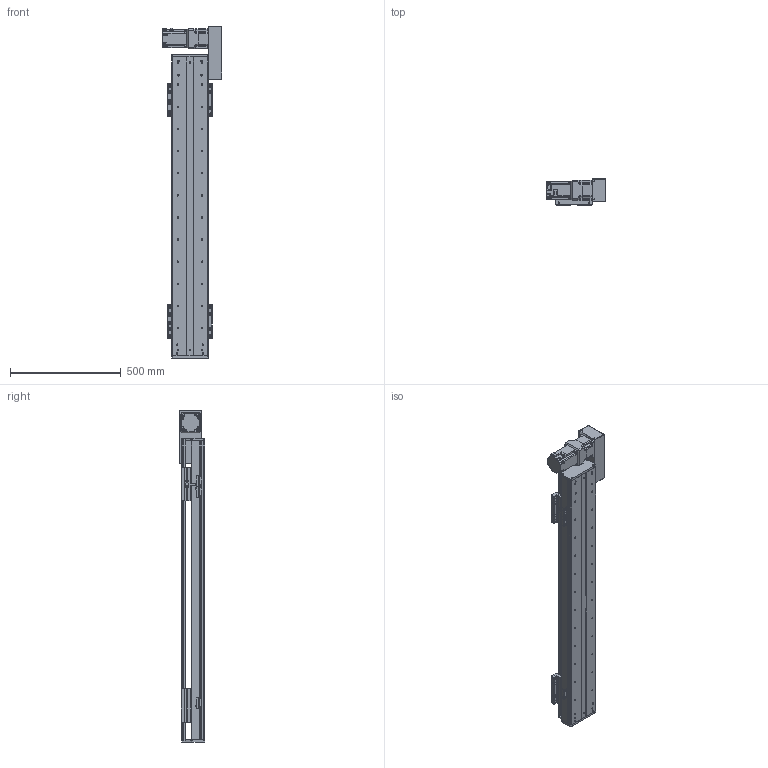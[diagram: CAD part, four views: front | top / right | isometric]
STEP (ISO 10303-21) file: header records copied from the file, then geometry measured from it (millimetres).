
FILE_DESCRIPTION(/* description */ (''),/* implementation_level */ '2;1');
FILE_NAME(/* name */ 'C:\Users\PC\Desktop\3D도면\STEP\DSB165-R7G-W1000-L.stp',/* time_stamp */ '2018-06-25T14:38:57+09:00',/* author */ ('PC'),/* organization */ (''),/* preprocessor_version */ 'ST-DEVELOPER v16.5',/* originating_system */ 'Autodesk Inventor 2017',/* authorisation */ '');
FILE_SCHEMA (('AUTOMOTIVE_DESIGN { 1 0 10303 214 3 1 1 }'));
Length unit declared in the file: millimetre
Products named in the file (12): DSB165-L7G-W1000-R_MIR; DSB165-BASE-L_MIR; hg-kr73__MIR; ab0901-p0401300102_MIR; 11-DSB165 BELT COVER_MIR; 12-DSB165-REAR COVER_MIR; 14-DSB165-FRONT COVER_MIR; DSB165-UP COVER_MIR; DSB165-TABLE(MSB20S)_MIR; DSR165-SENSOR DOG_MIR; pm-y65_step_MIR; SENSOR BRACKET(EE-SX674A)_MIR
Assembly tree (16 placements, depth 2):
  DSB165-L7G-W1000-R_MIR
    DSB165-BASE-L_MIR
    hg-kr73__MIR
    ab0901-p0401300102_MIR
    11-DSB165 BELT COVER_MIR
    12-DSB165-REAR COVER_MIR
    14-DSB165-FRONT COVER_MIR
    DSB165-UP COVER_MIR
    DSB165-TABLE(MSB20S)_MIR  x2
    DSR165-SENSOR DOG_MIR
    pm-y65_step_MIR  x3
    SENSOR BRACKET(EE-SX674A)_MIR  x3
Bounding box: 270 x 115 x 1500 mm (x, y, z)
Volume: 8867023.8 mm3; surface area: 2053109.4 mm2
Topology: 17 solids, 17 shells, 1669 faces, 4484 edges, 2954 vertices
Faces by surface type: plane 921, cylinder 620, cone 116, sphere 8, torus 4
Full cylindrical faces by diameter (mm): 2.459 x20, 3.5 x6, 4.134 x42, 4.5 x18, 5 x27, 5.5 x36, 5.9 x4, 6 x4, 6.6 x14, 6.647 x44, 6.8 x1, 7 x4, 7.6 x4, 8.4 x1, 8.5 x24, 8.7 x1, 9.5 x32, 11 x6, 14 x16, 19 x1, 22 x1, 24 x1, 25 x1, 28 x1, 67 x1, 70 x2, 80 x1
Entity records: 36172 total; most frequent: DIRECTION 6266, CARTESIAN_POINT 6075, ORIENTED_EDGE 5538, EDGE_CURVE 2769, AXIS2_PLACEMENT_3D 2303, VERTEX_POINT 1974, EDGE_LOOP 1735, LINE 1660
